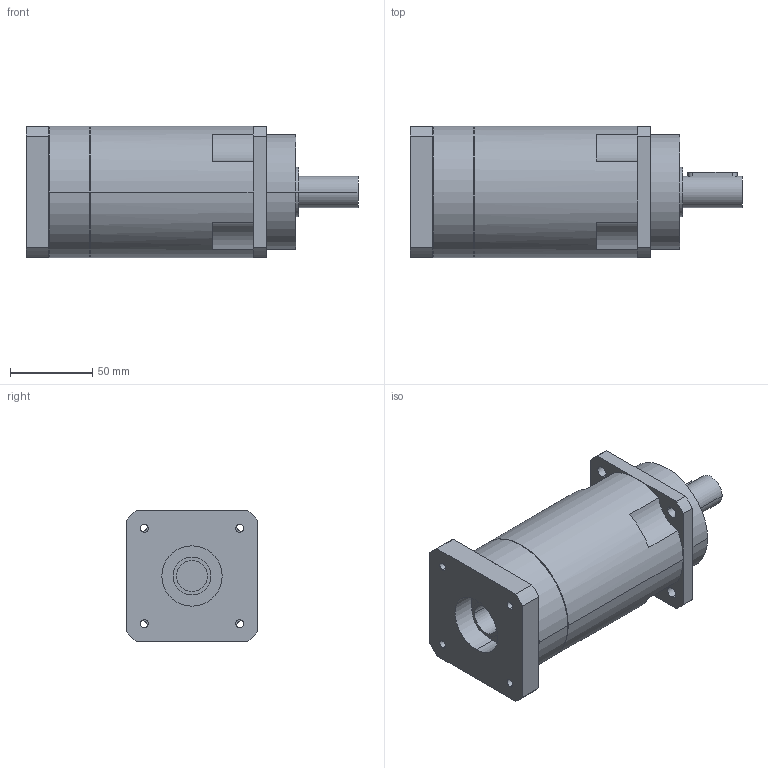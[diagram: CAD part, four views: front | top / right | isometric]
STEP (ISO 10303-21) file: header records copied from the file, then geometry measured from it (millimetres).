
FILE_DESCRIPTION(('CoCreate Modeling STEP Export'),'2;1');
FILE_NAME('GPR100_ig-48-64-80-100-120-144-180-216_19_B5_19_P27.stp','2014-08-26T11:56:30',(''),(''),'CoCreate Modeling STEP processor for AP214 (Solid Model)','CoCreate Modeling 16.00C 25-Feb-2009 (C) Parametric Technology GmbH','');
FILE_SCHEMA(('AUTOMOTIVE_DESIGN { 1 0 10303 214 1 1 1 1 }'));
Length unit declared in the file: millimetre
Products named in the file (2): GPR100_ig-48-64-80-100-120-144-180-216_19_B5_19_P27
Assembly tree (1 placements, depth 2):
  GPR100_ig-48-64-80-100-120-144-180-216_19_B5_19_P27
    GPR100_ig-48-64-80-100-120-144-180-216_19_B5_19_P27
Bounding box: 202.4 x 80 x 80 mm (x, y, z)
Volume: 812338.5 mm3; surface area: 66280.8 mm2
Topology: 1 solids, 1 shells, 87 faces, 257 edges, 175 vertices
Faces by surface type: cylinder 48, plane 33, cone 6
Entity records: 2725 total; most frequent: CARTESIAN_POINT 577, ORIENTED_EDGE 510, DIRECTION 376, EDGE_CURVE 255, VERTEX_POINT 175, AXIS2_PLACEMENT_3D 142, EDGE_LOOP 108, VECTOR 92
